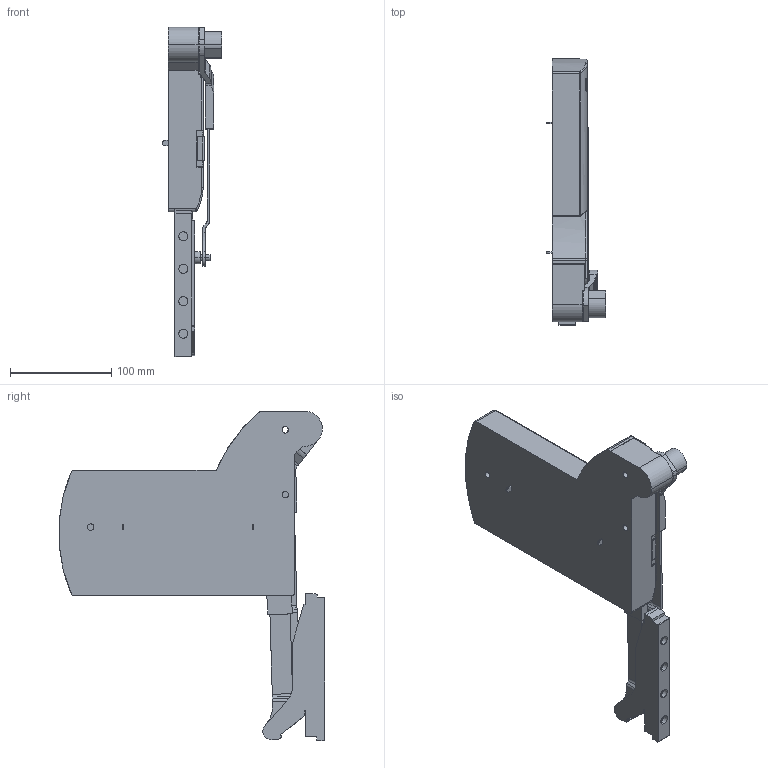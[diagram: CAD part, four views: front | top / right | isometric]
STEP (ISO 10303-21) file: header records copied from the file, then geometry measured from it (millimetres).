
FILE_DESCRIPTION (( 'STEP AP203' ), '1' );
FILE_NAME ('Kinvaro_L-80_Typ2_links_D2806012125~b.step', '2012-05-04T06:32:49', ( 'admin' ), ( 'Hewlett-Packard Company' ), 'SwSTEP 2.0', 'SolidWorks 2011', '' );
FILE_SCHEMA (( 'CONFIG_CONTROL_DESIGN' ));
Length unit declared in the file: millimetre
Products named in the file (1): Kinvaro_L-80_Typ2_links_D2806012125~b
Bounding box: 59 x 262.07 x 324.98 mm (x, y, z)
Volume: 1199473.8 mm3; surface area: 134558.5 mm2
Topology: 1 solids, 1 shells, 609 faces, 1688 edges, 1101 vertices
Faces by surface type: cylinder 324, plane 243, bspline 22, torus 18, sphere 2
Entity records: 20457 total; most frequent: CARTESIAN_POINT 4878, ORIENTED_EDGE 3370, DIRECTION 3195, EDGE_CURVE 1685, AXIS2_PLACEMENT_3D 1146, VERTEX_POINT 1101, LINE 903, VECTOR 903
